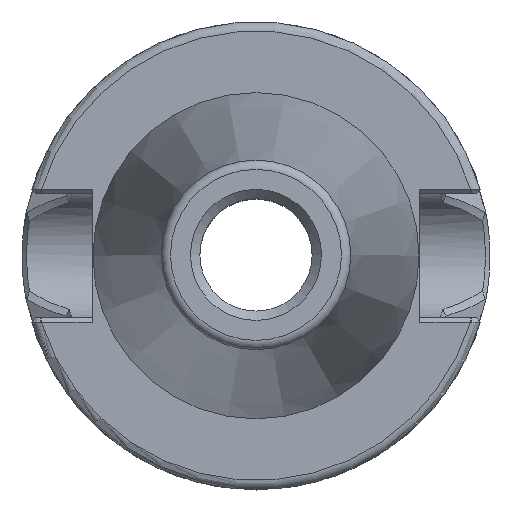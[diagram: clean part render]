
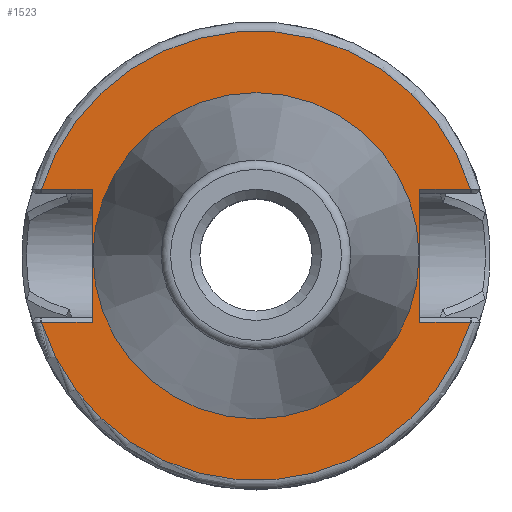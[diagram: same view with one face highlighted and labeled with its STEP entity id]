
A CAD part, top view. The second image highlights one B-rep face of the part: STEP entity #1523.
In plain terms, the highlighted planar face has unit normal (0, 0, 1).
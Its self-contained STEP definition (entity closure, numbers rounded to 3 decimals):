
#180=LINE('',#2247,#261);
#198=LINE('',#2858,#279);
#205=LINE('',#3066,#286);
#219=LINE('',#3548,#300);
#224=LINE('',#3606,#305);
#225=LINE('',#3608,#306);
#261=VECTOR('',#1785,10.);
#279=VECTOR('',#1813,10.);
#286=VECTOR('',#1868,10.);
#300=VECTOR('',#1892,10.);
#305=VECTOR('',#1911,10.);
#306=VECTOR('',#1914,10.);
#349=FACE_BOUND('',#537,.T.);
#371=PLANE('',#1664);
#447=FACE_OUTER_BOUND('',#536,.T.);
#536=EDGE_LOOP('',(#1339,#1340,#1341,#1342,#1343,#1344,#1345,#1346));
#537=EDGE_LOOP('',(#1347,#1348));
#594=CIRCLE('',#1650,48.);
#595=CIRCLE('',#1658,48.);
#597=CIRCLE('',#1665,34.5);
#598=CIRCLE('',#1666,34.5);
#642=VERTEX_POINT('',#2244);
#643=VERTEX_POINT('',#2246);
#686=VERTEX_POINT('',#2851);
#689=VERTEX_POINT('',#2856);
#714=VERTEX_POINT('',#3042);
#717=VERTEX_POINT('',#3065);
#736=VERTEX_POINT('',#3541);
#739=VERTEX_POINT('',#3546);
#742=VERTEX_POINT('',#3609);
#743=VERTEX_POINT('',#3610);
#808=EDGE_CURVE('',#642,#643,#180,.T.);
#867=EDGE_CURVE('',#689,#686,#198,.T.);
#906=EDGE_CURVE('',#686,#714,#594,.T.);
#910=EDGE_CURVE('',#714,#717,#205,.T.);
#946=EDGE_CURVE('',#739,#736,#219,.T.);
#950=EDGE_CURVE('',#736,#642,#595,.T.);
#956=EDGE_CURVE('',#689,#643,#224,.T.);
#957=EDGE_CURVE('',#739,#717,#225,.T.);
#958=EDGE_CURVE('',#742,#743,#597,.T.);
#959=EDGE_CURVE('',#743,#742,#598,.T.);
#1339=ORIENTED_EDGE('',*,*,#808,.F.);
#1340=ORIENTED_EDGE('',*,*,#950,.F.);
#1341=ORIENTED_EDGE('',*,*,#946,.F.);
#1342=ORIENTED_EDGE('',*,*,#957,.T.);
#1343=ORIENTED_EDGE('',*,*,#910,.F.);
#1344=ORIENTED_EDGE('',*,*,#906,.F.);
#1345=ORIENTED_EDGE('',*,*,#867,.F.);
#1346=ORIENTED_EDGE('',*,*,#956,.T.);
#1347=ORIENTED_EDGE('',*,*,#958,.F.);
#1348=ORIENTED_EDGE('',*,*,#959,.F.);
#1523=ADVANCED_FACE('',(#447,#349),#371,.T.);
#1650=AXIS2_PLACEMENT_3D('',#3043,#1863,#1864);
#1658=AXIS2_PLACEMENT_3D('',#3594,#1895,#1896);
#1664=AXIS2_PLACEMENT_3D('',#3607,#1912,#1913);
#1665=AXIS2_PLACEMENT_3D('',#3611,#1915,#1916);
#1666=AXIS2_PLACEMENT_3D('',#3612,#1917,#1918);
#1785=DIRECTION('',(1.,0.,0.));
#1813=DIRECTION('',(-1.,0.,0.));
#1863=DIRECTION('center_axis',(0.,0.,-1.));
#1864=DIRECTION('ref_axis',(-1.,0.,0.));
#1868=DIRECTION('',(-1.,0.,0.));
#1892=DIRECTION('',(1.,0.,0.));
#1895=DIRECTION('center_axis',(0.,0.,-1.));
#1896=DIRECTION('ref_axis',(-1.,0.,0.));
#1911=DIRECTION('',(0.,-1.,0.));
#1912=DIRECTION('center_axis',(0.,0.,1.));
#1913=DIRECTION('ref_axis',(1.,0.,0.));
#1914=DIRECTION('',(0.,1.,0.));
#1915=DIRECTION('center_axis',(0.,0.,1.));
#1916=DIRECTION('ref_axis',(1.,0.,0.));
#1917=DIRECTION('center_axis',(0.,0.,1.));
#1918=DIRECTION('ref_axis',(1.,0.,0.));
#2244=CARTESIAN_POINT('',(-45.836,-14.25,-105.));
#2246=CARTESIAN_POINT('',(-35.,-14.25,-105.));
#2247=CARTESIAN_POINT('',(-7.75,-14.25,-105.));
#2851=CARTESIAN_POINT('',(-45.836,14.25,-105.));
#2856=CARTESIAN_POINT('',(-35.,14.25,-105.));
#2858=CARTESIAN_POINT('',(-7.75,14.25,-105.));
#3042=CARTESIAN_POINT('',(45.836,14.25,-105.));
#3043=CARTESIAN_POINT('Origin',(0.,0.,-105.));
#3065=CARTESIAN_POINT('',(35.,14.25,-105.));
#3066=CARTESIAN_POINT('',(42.25,14.25,-105.));
#3541=CARTESIAN_POINT('',(45.836,-14.25,-105.));
#3546=CARTESIAN_POINT('',(35.,-14.25,-105.));
#3548=CARTESIAN_POINT('',(42.25,-14.25,-105.));
#3594=CARTESIAN_POINT('Origin',(0.,0.,-105.));
#3606=CARTESIAN_POINT('',(-35.,0.,-105.));
#3607=CARTESIAN_POINT('Origin',(34.5,0.,-105.));
#3608=CARTESIAN_POINT('',(35.,0.,-105.));
#3609=CARTESIAN_POINT('',(34.5,0.,-105.));
#3610=CARTESIAN_POINT('',(-34.5,0.,-105.));
#3611=CARTESIAN_POINT('Origin',(0.,0.,-105.));
#3612=CARTESIAN_POINT('Origin',(0.,0.,-105.));
